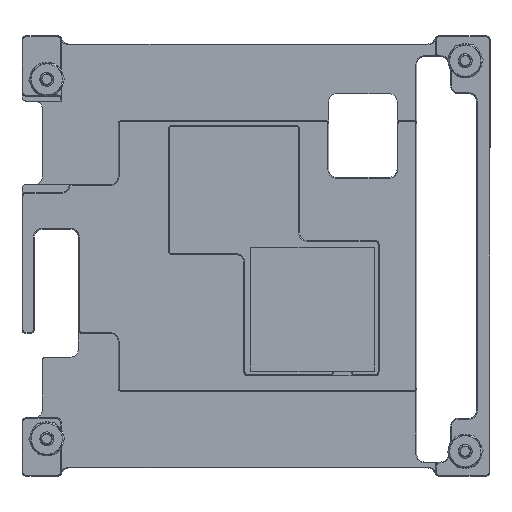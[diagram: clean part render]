
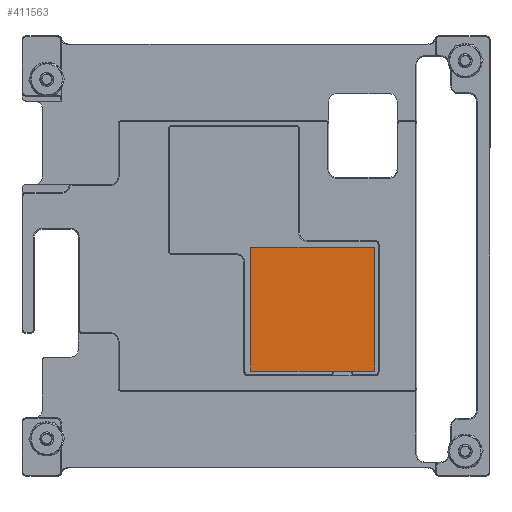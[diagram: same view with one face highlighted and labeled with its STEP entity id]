
A CAD part, front view. The second image highlights one B-rep face of the part: STEP entity #411563.
In plain terms, the highlighted planar face has unit normal (0, -1, 0).
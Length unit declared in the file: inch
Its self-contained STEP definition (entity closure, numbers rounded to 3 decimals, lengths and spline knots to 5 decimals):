
#14594 = LINE ( 'NONE', #80400, #232071 ) ;
#26900 = LINE ( 'NONE', #1146804, #520042 ) ;
#80400 = CARTESIAN_POINT ( 'NONE',  ( 0.5, 0., -0.5 ) ) ;
#98663 = PLANE ( 'NONE',  #816225 ) ;
#119446 = ORIENTED_EDGE ( 'NONE', *, *, #198577, .F. ) ;
#120973 = VECTOR ( 'NONE', #644117, 39.37008 ) ;
#149988 = LINE ( 'NONE', #271399, #120973 ) ;
#182057 = FACE_OUTER_BOUND ( 'NONE', #224455, .T. ) ;
#191804 = DIRECTION ( 'NONE',  ( 0., 1., 0. ) ) ;
#198577 = EDGE_CURVE ( 'NONE', #770501, #1132659, #149988, .T. ) ;
#206692 = DIRECTION ( 'NONE',  ( 0., 0., 1. ) ) ;
#224455 = EDGE_LOOP ( 'NONE', ( #929789, #119446, #999796, #294482 ) ) ;
#232071 = VECTOR ( 'NONE', #821300, 39.37008 ) ;
#271399 = CARTESIAN_POINT ( 'NONE',  ( -0.5, 0., -0.5 ) ) ;
#280860 = CARTESIAN_POINT ( 'NONE',  ( 0., 0., 0. ) ) ;
#294482 = ORIENTED_EDGE ( 'NONE', *, *, #1022128, .F. ) ;
#325430 = CARTESIAN_POINT ( 'NONE',  ( -0.5, 0., -0.5 ) ) ;
#334841 = EDGE_CURVE ( 'NONE', #1132659, #514448, #1115979, .T. ) ;
#343972 = EDGE_CURVE ( 'NONE', #422690, #770501, #14594, .T. ) ;
#408497 = CARTESIAN_POINT ( 'NONE',  ( 0.5, 0., 0.5 ) ) ;
#411563 = ADVANCED_FACE ( 'NONE', ( #182057 ), #98663, .F. ) ;
#422690 = VERTEX_POINT ( 'NONE', #408497 ) ;
#450104 = CARTESIAN_POINT ( 'NONE',  ( -0.5, 0., 0.5 ) ) ;
#514448 = VERTEX_POINT ( 'NONE', #450104 ) ;
#520042 = VECTOR ( 'NONE', #592493, 39.37008 ) ;
#592493 = DIRECTION ( 'NONE',  ( 1., 0., 0. ) ) ;
#644117 = DIRECTION ( 'NONE',  ( -1., 0., 0. ) ) ;
#652599 = VECTOR ( 'NONE', #206692, 39.37008 ) ;
#668425 = CARTESIAN_POINT ( 'NONE',  ( -0.5, 0., -0.5 ) ) ;
#770501 = VERTEX_POINT ( 'NONE', #793523 ) ;
#793523 = CARTESIAN_POINT ( 'NONE',  ( 0.5, 0., -0.5 ) ) ;
#816225 = AXIS2_PLACEMENT_3D ( 'NONE', #280860, #191804, #839571 ) ;
#821300 = DIRECTION ( 'NONE',  ( 0., 0., -1. ) ) ;
#839571 = DIRECTION ( 'NONE',  ( 0., 0., 1. ) ) ;
#929789 = ORIENTED_EDGE ( 'NONE', *, *, #334841, .F. ) ;
#999796 = ORIENTED_EDGE ( 'NONE', *, *, #343972, .F. ) ;
#1022128 = EDGE_CURVE ( 'NONE', #514448, #422690, #26900, .T. ) ;
#1115979 = LINE ( 'NONE', #668425, #652599 ) ;
#1132659 = VERTEX_POINT ( 'NONE', #325430 ) ;
#1146804 = CARTESIAN_POINT ( 'NONE',  ( -0.5, 0., 0.5 ) ) ;
